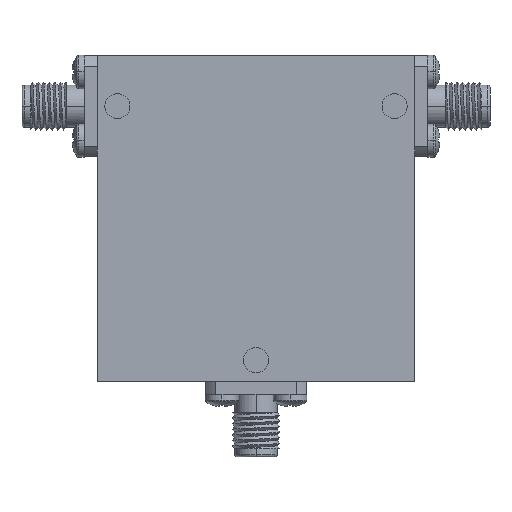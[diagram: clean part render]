
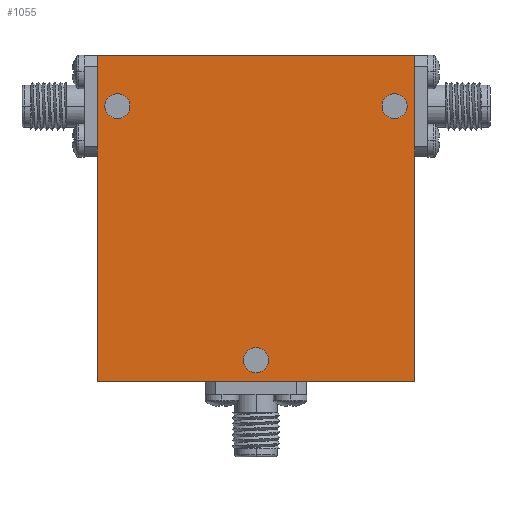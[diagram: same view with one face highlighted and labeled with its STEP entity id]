
A CAD part, top view. The second image highlights one B-rep face of the part: STEP entity #1055.
In plain terms, the highlighted planar face has unit normal (0, 0, 1) as drawn and (0, 0, -1) by its records, which use the part's own axes.
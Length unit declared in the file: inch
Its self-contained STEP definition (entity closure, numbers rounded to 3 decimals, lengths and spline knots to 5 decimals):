
#10 = DIRECTION ( 'NONE',  ( 1., 0., 0. ) ) ;
#19 = CIRCLE ( 'NONE', #2719, 0.0625 ) ;
#67 = VERTEX_POINT ( 'NONE', #2894 ) ;
#152 = AXIS2_PLACEMENT_3D ( 'NONE', #1799, #1502, #1193 ) ;
#176 = FACE_OUTER_BOUND ( 'NONE', #1798, .T. ) ;
#180 = CARTESIAN_POINT ( 'NONE',  ( -0.79, -0.81, -0.35 ) ) ;
#250 = EDGE_LOOP ( 'NONE', ( #2131, #1155 ) ) ;
#349 = VERTEX_POINT ( 'NONE', #2663 ) ;
#356 = AXIS2_PLACEMENT_3D ( 'NONE', #3692, #735, #3430 ) ;
#405 = CARTESIAN_POINT ( 'NONE',  ( 0.79, -0.81, -0.35 ) ) ;
#469 = CARTESIAN_POINT ( 'NONE',  ( -0.79, 0.81, -0.35 ) ) ;
#478 = VERTEX_POINT ( 'NONE', #3360 ) ;
#549 = AXIS2_PLACEMENT_3D ( 'NONE', #2540, #1333, #1959 ) ;
#579 = CIRCLE ( 'NONE', #1373, 0.0625 ) ;
#586 = CARTESIAN_POINT ( 'NONE',  ( -0.79, -0.81, -0.35 ) ) ;
#591 = CIRCLE ( 'NONE', #2320, 0.0625 ) ;
#660 = VERTEX_POINT ( 'NONE', #180 ) ;
#707 = EDGE_CURVE ( 'NONE', #660, #2192, #3564, .T. ) ;
#718 = DIRECTION ( 'NONE',  ( -1., 0., 0. ) ) ;
#735 = DIRECTION ( 'NONE',  ( 0., 0., 1. ) ) ;
#796 = CIRCLE ( 'NONE', #1238, 0.0625 ) ;
#797 = EDGE_CURVE ( 'NONE', #3420, #349, #1250, .T. ) ;
#828 = EDGE_CURVE ( 'NONE', #3597, #67, #19, .T. ) ;
#899 = EDGE_CURVE ( 'NONE', #2178, #478, #591, .T. ) ;
#967 = EDGE_CURVE ( 'NONE', #478, #2178, #1083, .T. ) ;
#1025 = CARTESIAN_POINT ( 'NONE',  ( -0.6275, 0.56, -0.35 ) ) ;
#1055 = ADVANCED_FACE ( 'NONE', ( #1970, #1320, #2338, #176 ), #3445, .F. ) ;
#1083 = CIRCLE ( 'NONE', #356, 0.0625 ) ;
#1102 = DIRECTION ( 'NONE',  ( 0., 1., 0. ) ) ;
#1106 = DIRECTION ( 'NONE',  ( 0., 0., 1. ) ) ;
#1109 = ORIENTED_EDGE ( 'NONE', *, *, #1228, .T. ) ;
#1142 = VECTOR ( 'NONE', #718, 39.37008 ) ;
#1155 = ORIENTED_EDGE ( 'NONE', *, *, #899, .T. ) ;
#1193 = DIRECTION ( 'NONE',  ( 1., 0., 0. ) ) ;
#1228 = EDGE_CURVE ( 'NONE', #349, #3420, #579, .T. ) ;
#1238 = AXIS2_PLACEMENT_3D ( 'NONE', #2747, #1881, #2147 ) ;
#1245 = EDGE_LOOP ( 'NONE', ( #1109, #1859 ) ) ;
#1247 = EDGE_CURVE ( 'NONE', #3233, #660, #3024, .T. ) ;
#1250 = CIRCLE ( 'NONE', #152, 0.0625 ) ;
#1299 = ORIENTED_EDGE ( 'NONE', *, *, #3163, .F. ) ;
#1320 = FACE_BOUND ( 'NONE', #250, .T. ) ;
#1333 = DIRECTION ( 'NONE',  ( 0., 0., 1. ) ) ;
#1373 = AXIS2_PLACEMENT_3D ( 'NONE', #3505, #1106, #1709 ) ;
#1438 = ORIENTED_EDGE ( 'NONE', *, *, #1247, .F. ) ;
#1492 = EDGE_CURVE ( 'NONE', #2737, #3233, #3169, .T. ) ;
#1502 = DIRECTION ( 'NONE',  ( 0., 0., 1. ) ) ;
#1537 = ORIENTED_EDGE ( 'NONE', *, *, #1492, .F. ) ;
#1709 = DIRECTION ( 'NONE',  ( 1., 0., 0. ) ) ;
#1798 = EDGE_LOOP ( 'NONE', ( #1299, #2080, #1438, #1537 ) ) ;
#1799 = CARTESIAN_POINT ( 'NONE',  ( 0.69, 0.56, -0.35 ) ) ;
#1813 = DIRECTION ( 'NONE',  ( 1., 0., 0. ) ) ;
#1859 = ORIENTED_EDGE ( 'NONE', *, *, #797, .T. ) ;
#1869 = CARTESIAN_POINT ( 'NONE',  ( 0., -0.705, -0.35 ) ) ;
#1881 = DIRECTION ( 'NONE',  ( 0., 0., 1. ) ) ;
#1959 = DIRECTION ( 'NONE',  ( 1., 0., 0. ) ) ;
#1970 = FACE_BOUND ( 'NONE', #1245, .T. ) ;
#2080 = ORIENTED_EDGE ( 'NONE', *, *, #707, .F. ) ;
#2131 = ORIENTED_EDGE ( 'NONE', *, *, #967, .T. ) ;
#2147 = DIRECTION ( 'NONE',  ( 1., 0., 0. ) ) ;
#2178 = VERTEX_POINT ( 'NONE', #2754 ) ;
#2192 = VERTEX_POINT ( 'NONE', #405 ) ;
#2258 = CARTESIAN_POINT ( 'NONE',  ( 0.6275, 0.56, -0.35 ) ) ;
#2266 = ORIENTED_EDGE ( 'NONE', *, *, #828, .T. ) ;
#2320 = AXIS2_PLACEMENT_3D ( 'NONE', #1869, #3033, #3076 ) ;
#2338 = FACE_BOUND ( 'NONE', #3560, .T. ) ;
#2399 = CARTESIAN_POINT ( 'NONE',  ( -0.69, 0.56, -0.35 ) ) ;
#2501 = ORIENTED_EDGE ( 'NONE', *, *, #3271, .T. ) ;
#2540 = CARTESIAN_POINT ( 'NONE',  ( 0., 0., -0.35 ) ) ;
#2580 = DIRECTION ( 'NONE',  ( 0., -1., 0. ) ) ;
#2663 = CARTESIAN_POINT ( 'NONE',  ( 0.7525, 0.56, -0.35 ) ) ;
#2719 = AXIS2_PLACEMENT_3D ( 'NONE', #2399, #3299, #1813 ) ;
#2737 = VERTEX_POINT ( 'NONE', #3296 ) ;
#2747 = CARTESIAN_POINT ( 'NONE',  ( -0.69, 0.56, -0.35 ) ) ;
#2754 = CARTESIAN_POINT ( 'NONE',  ( -0.0625, -0.705, -0.35 ) ) ;
#2780 = VECTOR ( 'NONE', #10, 39.37008 ) ;
#2884 = CARTESIAN_POINT ( 'NONE',  ( -0.79, 0.81, -0.35 ) ) ;
#2894 = CARTESIAN_POINT ( 'NONE',  ( -0.7525, 0.56, -0.35 ) ) ;
#3024 = LINE ( 'NONE', #2884, #3395 ) ;
#3033 = DIRECTION ( 'NONE',  ( 0., 0., 1. ) ) ;
#3076 = DIRECTION ( 'NONE',  ( 1., 0., 0. ) ) ;
#3163 = EDGE_CURVE ( 'NONE', #2192, #2737, #3398, .T. ) ;
#3169 = LINE ( 'NONE', #469, #1142 ) ;
#3233 = VERTEX_POINT ( 'NONE', #3666 ) ;
#3271 = EDGE_CURVE ( 'NONE', #67, #3597, #796, .T. ) ;
#3296 = CARTESIAN_POINT ( 'NONE',  ( 0.79, 0.81, -0.35 ) ) ;
#3299 = DIRECTION ( 'NONE',  ( 0., 0., 1. ) ) ;
#3360 = CARTESIAN_POINT ( 'NONE',  ( 0.0625, -0.705, -0.35 ) ) ;
#3395 = VECTOR ( 'NONE', #2580, 39.37008 ) ;
#3398 = LINE ( 'NONE', #3487, #3485 ) ;
#3420 = VERTEX_POINT ( 'NONE', #2258 ) ;
#3430 = DIRECTION ( 'NONE',  ( 1., 0., 0. ) ) ;
#3445 = PLANE ( 'NONE',  #549 ) ;
#3485 = VECTOR ( 'NONE', #1102, 39.37008 ) ;
#3487 = CARTESIAN_POINT ( 'NONE',  ( 0.79, 0.81, -0.35 ) ) ;
#3505 = CARTESIAN_POINT ( 'NONE',  ( 0.69, 0.56, -0.35 ) ) ;
#3560 = EDGE_LOOP ( 'NONE', ( #2266, #2501 ) ) ;
#3564 = LINE ( 'NONE', #586, #2780 ) ;
#3597 = VERTEX_POINT ( 'NONE', #1025 ) ;
#3666 = CARTESIAN_POINT ( 'NONE',  ( -0.79, 0.81, -0.35 ) ) ;
#3692 = CARTESIAN_POINT ( 'NONE',  ( 0., -0.705, -0.35 ) ) ;
